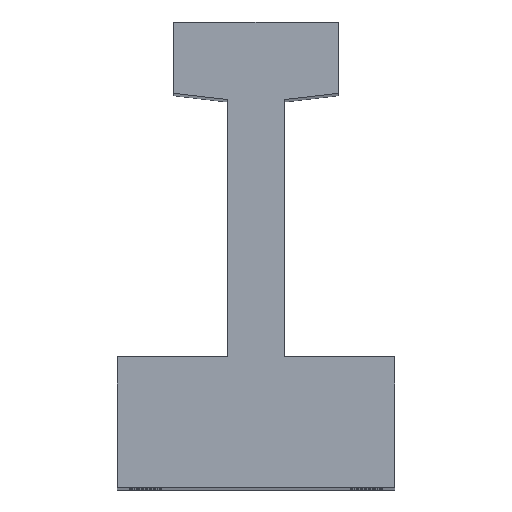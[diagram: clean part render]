
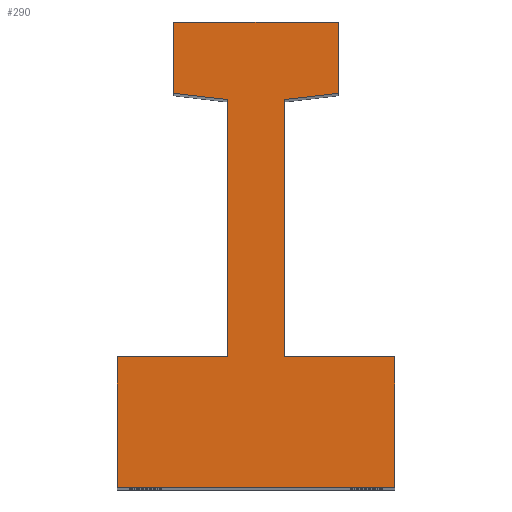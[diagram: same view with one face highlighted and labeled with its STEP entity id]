
A CAD part, top view. The second image highlights one B-rep face of the part: STEP entity #290.
In plain terms, the highlighted planar face has unit normal (0, 0, 1).
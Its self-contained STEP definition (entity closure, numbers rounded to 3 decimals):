
#25 = EDGE_CURVE ( 'NONE', #820, #2557, #1056, .T. ) ;
#58 = DIRECTION ( 'NONE',  ( -1., 0., 0. ) ) ;
#73 = VERTEX_POINT ( 'NONE', #494 ) ;
#78 = VECTOR ( 'NONE', #2164, 1000. ) ;
#109 = DIRECTION ( 'NONE',  ( 0., -1., 0. ) ) ;
#138 = ORIENTED_EDGE ( 'NONE', *, *, #1826, .T. ) ;
#226 = CARTESIAN_POINT ( 'NONE',  ( -10.4, 49.8, 181. ) ) ;
#256 = VERTEX_POINT ( 'NONE', #716 ) ;
#278 = DIRECTION ( 'NONE',  ( 0., 1., 0. ) ) ;
#286 = LINE ( 'NONE', #1163, #78 ) ;
#290 = ADVANCED_FACE ( 'NONE', ( #2434 ), #1963, .F. ) ;
#324 = EDGE_CURVE ( 'NONE', #508, #1145, #286, .T. ) ;
#328 = LINE ( 'NONE', #422, #1436 ) ;
#345 = CARTESIAN_POINT ( 'NONE',  ( -17.5, 16.5, 181. ) ) ;
#348 = VECTOR ( 'NONE', #278, 1000. ) ;
#364 = CARTESIAN_POINT ( 'NONE',  ( 3.55, 16.5, 181. ) ) ;
#370 = CARTESIAN_POINT ( 'NONE',  ( 0., 0., 181. ) ) ;
#422 = CARTESIAN_POINT ( 'NONE',  ( 17.5, 16.5, 181. ) ) ;
#425 = CARTESIAN_POINT ( 'NONE',  ( -10.4, 58.8, 181. ) ) ;
#455 = EDGE_CURVE ( 'NONE', #2425, #508, #2363, .T. ) ;
#478 = CARTESIAN_POINT ( 'NONE',  ( 10.4, 58.8, 181. ) ) ;
#494 = CARTESIAN_POINT ( 'NONE',  ( -3.55, 16.5, 181. ) ) ;
#503 = EDGE_CURVE ( 'NONE', #2557, #1501, #2304, .T. ) ;
#508 = VERTEX_POINT ( 'NONE', #1799 ) ;
#543 = VECTOR ( 'NONE', #109, 1000. ) ;
#572 = CARTESIAN_POINT ( 'NONE',  ( -10.4, 58.8, 181. ) ) ;
#585 = ORIENTED_EDGE ( 'NONE', *, *, #503, .T. ) ;
#588 = VECTOR ( 'NONE', #58, 1000. ) ;
#639 = AXIS2_PLACEMENT_3D ( 'NONE', #370, #1759, #1168 ) ;
#690 = ORIENTED_EDGE ( 'NONE', *, *, #1375, .T. ) ;
#716 = CARTESIAN_POINT ( 'NONE',  ( 3.55, 16.5, 181. ) ) ;
#763 = DIRECTION ( 'NONE',  ( 0., -1., 0. ) ) ;
#788 = CARTESIAN_POINT ( 'NONE',  ( -17.5, 0., 181. ) ) ;
#791 = CARTESIAN_POINT ( 'NONE',  ( 3.55, 49., 181. ) ) ;
#820 = VERTEX_POINT ( 'NONE', #478 ) ;
#828 = CARTESIAN_POINT ( 'NONE',  ( 17.5, 0., 181. ) ) ;
#831 = EDGE_CURVE ( 'NONE', #256, #1032, #862, .T. ) ;
#849 = DIRECTION ( 'NONE',  ( 0.993, 0.116, 0. ) ) ;
#862 = LINE ( 'NONE', #1478, #348 ) ;
#874 = ORIENTED_EDGE ( 'NONE', *, *, #1195, .T. ) ;
#929 = ORIENTED_EDGE ( 'NONE', *, *, #2096, .T. ) ;
#931 = VECTOR ( 'NONE', #1601, 1000. ) ;
#949 = EDGE_LOOP ( 'NONE', ( #2079, #1916, #690, #1214, #874, #2340, #1660, #585, #929, #1515, #138, #2081 ) ) ;
#978 = LINE ( 'NONE', #2108, #543 ) ;
#982 = CARTESIAN_POINT ( 'NONE',  ( -10.4, 49.8, 181. ) ) ;
#1026 = LINE ( 'NONE', #1592, #931 ) ;
#1032 = VERTEX_POINT ( 'NONE', #791 ) ;
#1056 = LINE ( 'NONE', #425, #588 ) ;
#1094 = VERTEX_POINT ( 'NONE', #1239 ) ;
#1103 = LINE ( 'NONE', #364, #1257 ) ;
#1108 = CARTESIAN_POINT ( 'NONE',  ( 10.4, 49.8, 181. ) ) ;
#1145 = VERTEX_POINT ( 'NONE', #828 ) ;
#1163 = CARTESIAN_POINT ( 'NONE',  ( 17.5, 0., 181. ) ) ;
#1168 = DIRECTION ( 'NONE',  ( -1., 0., 0. ) ) ;
#1195 = EDGE_CURVE ( 'NONE', #1032, #2310, #2564, .T. ) ;
#1214 = ORIENTED_EDGE ( 'NONE', *, *, #831, .T. ) ;
#1239 = CARTESIAN_POINT ( 'NONE',  ( 17.5, 16.5, 181. ) ) ;
#1257 = VECTOR ( 'NONE', #2346, 1000. ) ;
#1331 = DIRECTION ( 'NONE',  ( -1., 0., 0. ) ) ;
#1346 = EDGE_CURVE ( 'NONE', #2310, #820, #1406, .T. ) ;
#1369 = LINE ( 'NONE', #2504, #2222 ) ;
#1375 = EDGE_CURVE ( 'NONE', #1094, #256, #1103, .T. ) ;
#1406 = LINE ( 'NONE', #1752, #2129 ) ;
#1410 = DIRECTION ( 'NONE',  ( 0., 1., 0. ) ) ;
#1422 = VERTEX_POINT ( 'NONE', #1946 ) ;
#1436 = VECTOR ( 'NONE', #1410, 1000. ) ;
#1478 = CARTESIAN_POINT ( 'NONE',  ( 3.55, 49., 181. ) ) ;
#1480 = EDGE_CURVE ( 'NONE', #1145, #1094, #328, .T. ) ;
#1501 = VERTEX_POINT ( 'NONE', #982 ) ;
#1515 = ORIENTED_EDGE ( 'NONE', *, *, #2285, .T. ) ;
#1592 = CARTESIAN_POINT ( 'NONE',  ( -3.55, 49., 181. ) ) ;
#1601 = DIRECTION ( 'NONE',  ( 0.993, -0.116, 0. ) ) ;
#1660 = ORIENTED_EDGE ( 'NONE', *, *, #25, .T. ) ;
#1752 = CARTESIAN_POINT ( 'NONE',  ( 10.4, 58.8, 181. ) ) ;
#1759 = DIRECTION ( 'NONE',  ( 0., 0., -1. ) ) ;
#1773 = VECTOR ( 'NONE', #763, 1000. ) ;
#1799 = CARTESIAN_POINT ( 'NONE',  ( -17.5, 0., 181. ) ) ;
#1826 = EDGE_CURVE ( 'NONE', #73, #2425, #1369, .T. ) ;
#1916 = ORIENTED_EDGE ( 'NONE', *, *, #1480, .T. ) ;
#1946 = CARTESIAN_POINT ( 'NONE',  ( -3.55, 49., 181. ) ) ;
#1963 = PLANE ( 'NONE',  #639 ) ;
#1975 = VECTOR ( 'NONE', #849, 1000. ) ;
#2048 = CARTESIAN_POINT ( 'NONE',  ( 10.4, 49.8, 181. ) ) ;
#2079 = ORIENTED_EDGE ( 'NONE', *, *, #324, .T. ) ;
#2081 = ORIENTED_EDGE ( 'NONE', *, *, #455, .T. ) ;
#2096 = EDGE_CURVE ( 'NONE', #1501, #1422, #1026, .T. ) ;
#2108 = CARTESIAN_POINT ( 'NONE',  ( -3.55, 16.5, 181. ) ) ;
#2129 = VECTOR ( 'NONE', #2160, 1000. ) ;
#2160 = DIRECTION ( 'NONE',  ( 0., 1., 0. ) ) ;
#2164 = DIRECTION ( 'NONE',  ( 1., 0., 0. ) ) ;
#2222 = VECTOR ( 'NONE', #1331, 1000. ) ;
#2285 = EDGE_CURVE ( 'NONE', #1422, #73, #978, .T. ) ;
#2304 = LINE ( 'NONE', #226, #1773 ) ;
#2310 = VERTEX_POINT ( 'NONE', #1108 ) ;
#2340 = ORIENTED_EDGE ( 'NONE', *, *, #1346, .T. ) ;
#2346 = DIRECTION ( 'NONE',  ( -1., 0., 0. ) ) ;
#2363 = LINE ( 'NONE', #788, #2431 ) ;
#2376 = DIRECTION ( 'NONE',  ( 0., -1., 0. ) ) ;
#2425 = VERTEX_POINT ( 'NONE', #345 ) ;
#2431 = VECTOR ( 'NONE', #2376, 1000. ) ;
#2434 = FACE_OUTER_BOUND ( 'NONE', #949, .T. ) ;
#2504 = CARTESIAN_POINT ( 'NONE',  ( -17.5, 16.5, 181. ) ) ;
#2557 = VERTEX_POINT ( 'NONE', #572 ) ;
#2564 = LINE ( 'NONE', #2048, #1975 ) ;
